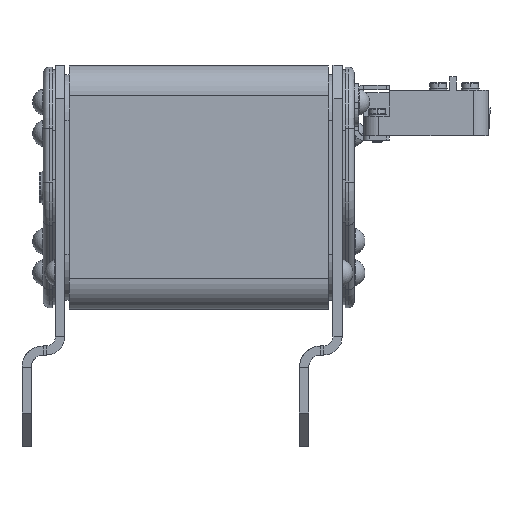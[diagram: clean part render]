
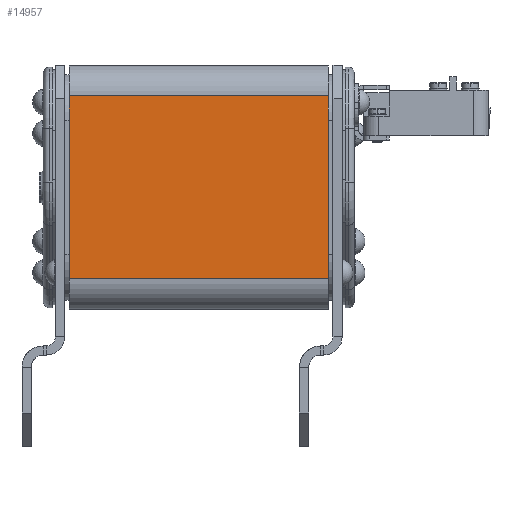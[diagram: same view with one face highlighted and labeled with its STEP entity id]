
A CAD part, left-side view. The second image highlights one B-rep face of the part: STEP entity #14957.
In plain terms, the highlighted planar face has unit normal (-1, 0, 0).
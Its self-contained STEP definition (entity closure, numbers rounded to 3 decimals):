
#1254 = CARTESIAN_POINT ( 'NONE',  ( -40., 42.5, 30. ) ) ;
#2244 = LINE ( 'NONE', #14496, #6542 ) ;
#2470 = DIRECTION ( 'NONE',  ( 0., 0., -1. ) ) ;
#2577 = DIRECTION ( 'NONE',  ( 0., 0., 1. ) ) ;
#2819 = EDGE_LOOP ( 'NONE', ( #29098, #19602, #20559, #8749 ) ) ;
#6542 = VECTOR ( 'NONE', #12130, 1000. ) ;
#7047 = VECTOR ( 'NONE', #26609, 1000. ) ;
#7844 = CARTESIAN_POINT ( 'NONE',  ( -40., 42.5, 30. ) ) ;
#8420 = VERTEX_POINT ( 'NONE', #14305 ) ;
#8632 = CARTESIAN_POINT ( 'NONE',  ( -40., -42.5, 30. ) ) ;
#8749 = ORIENTED_EDGE ( 'NONE', *, *, #13265, .T. ) ;
#11279 = CARTESIAN_POINT ( 'NONE',  ( -40., -42.5, 30. ) ) ;
#12130 = DIRECTION ( 'NONE',  ( 0., -1., 0. ) ) ;
#12807 = DIRECTION ( 'NONE',  ( 0., -1., 0. ) ) ;
#13068 = VERTEX_POINT ( 'NONE', #1254 ) ;
#13265 = EDGE_CURVE ( 'NONE', #29323, #8420, #2244, .T. ) ;
#13414 = CARTESIAN_POINT ( 'NONE',  ( -40., 42.5, -30. ) ) ;
#14214 = VECTOR ( 'NONE', #2577, 1000. ) ;
#14305 = CARTESIAN_POINT ( 'NONE',  ( -40., -42.5, -30. ) ) ;
#14496 = CARTESIAN_POINT ( 'NONE',  ( -40., 42.5, -30. ) ) ;
#14954 = DIRECTION ( 'NONE',  ( 1., 0., 0. ) ) ;
#14957 = ADVANCED_FACE ( 'NONE', ( #31948 ), #29976, .F. ) ;
#15058 = CARTESIAN_POINT ( 'NONE',  ( -40., 42.5, 30. ) ) ;
#16574 = EDGE_CURVE ( 'NONE', #8420, #17780, #32519, .T. ) ;
#17780 = VERTEX_POINT ( 'NONE', #8632 ) ;
#19602 = ORIENTED_EDGE ( 'NONE', *, *, #30101, .F. ) ;
#20559 = ORIENTED_EDGE ( 'NONE', *, *, #25946, .F. ) ;
#21327 = VECTOR ( 'NONE', #12807, 1000. ) ;
#22503 = CARTESIAN_POINT ( 'NONE',  ( -40., 42.5, 30. ) ) ;
#25946 = EDGE_CURVE ( 'NONE', #29323, #13068, #26798, .T. ) ;
#26609 = DIRECTION ( 'NONE',  ( 0., 0., 1. ) ) ;
#26798 = LINE ( 'NONE', #22503, #14214 ) ;
#28028 = LINE ( 'NONE', #7844, #21327 ) ;
#29098 = ORIENTED_EDGE ( 'NONE', *, *, #16574, .T. ) ;
#29298 = AXIS2_PLACEMENT_3D ( 'NONE', #15058, #14954, #2470 ) ;
#29323 = VERTEX_POINT ( 'NONE', #13414 ) ;
#29976 = PLANE ( 'NONE',  #29298 ) ;
#30101 = EDGE_CURVE ( 'NONE', #13068, #17780, #28028, .T. ) ;
#31948 = FACE_OUTER_BOUND ( 'NONE', #2819, .T. ) ;
#32519 = LINE ( 'NONE', #11279, #7047 ) ;
